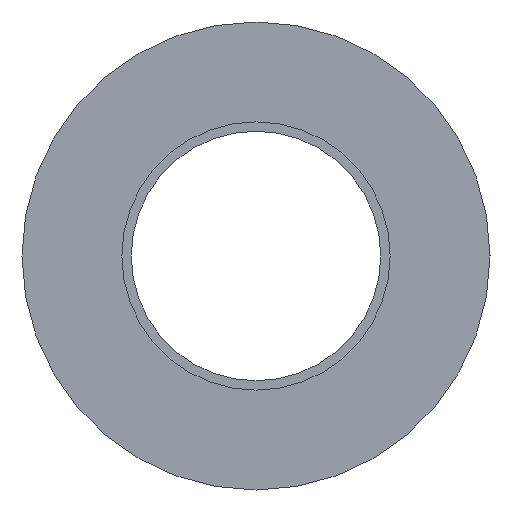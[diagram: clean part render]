
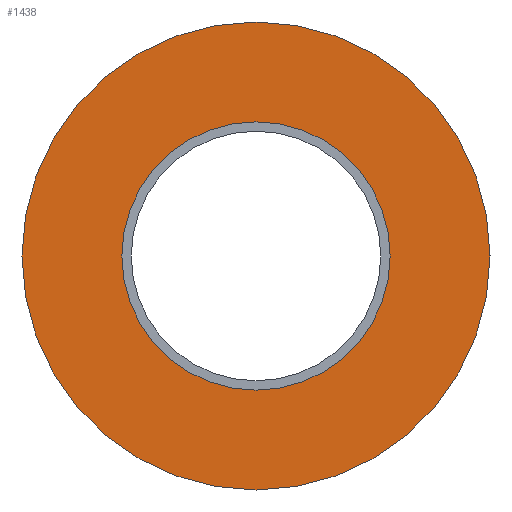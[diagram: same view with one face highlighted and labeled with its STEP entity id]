
A CAD part, left-side view. The second image highlights one B-rep face of the part: STEP entity #1438.
In plain terms, the highlighted planar face has unit normal (-1, 0, 0).
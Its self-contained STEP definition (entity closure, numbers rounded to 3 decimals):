
#556=CARTESIAN_POINT('',(0.0,15.0,0.0));
#557=VERTEX_POINT('',#556);
#566=CARTESIAN_POINT('',(0.0,-15.0,0.));
#567=VERTEX_POINT('',#566);
#568=CARTESIAN_POINT('',(0.0,0.0,0.0));
#569=DIRECTION('',(1.0,0.0,0.0));
#570=DIRECTION('',(0.0,1.0,0.0));
#571=AXIS2_PLACEMENT_3D('',#568,#569,#570);
#572=CIRCLE('',#571,15.0);
#573=EDGE_CURVE('',#557,#567,#572,.T.);
#701=CARTESIAN_POINT('',(0.0,0.,-8.6));
#702=VERTEX_POINT('',#701);
#718=CARTESIAN_POINT('',(0.0,0.,8.6));
#719=VERTEX_POINT('',#718);
#726=CARTESIAN_POINT('',(0.0,0.0,0.0));
#727=DIRECTION('',(-1.0,0.0,0.0));
#728=DIRECTION('',(0.0,0.0,-1.0));
#729=AXIS2_PLACEMENT_3D('',#726,#727,#728);
#730=CIRCLE('',#729,8.6);
#731=EDGE_CURVE('',#702,#719,#730,.F.);
#1128=CARTESIAN_POINT('',(0.0,0.0,0.0));
#1129=DIRECTION('',(-1.0,0.0,0.0));
#1130=DIRECTION('',(0.0,0.0,-1.0));
#1131=AXIS2_PLACEMENT_3D('',#1128,#1129,#1130);
#1132=CIRCLE('',#1131,8.6);
#1133=EDGE_CURVE('',#719,#702,#1132,.F.);
#1215=CARTESIAN_POINT('',(0.0,0.0,0.0));
#1216=DIRECTION('',(1.0,0.0,0.0));
#1217=DIRECTION('',(0.0,1.0,0.0));
#1218=AXIS2_PLACEMENT_3D('',#1215,#1216,#1217);
#1219=CIRCLE('',#1218,15.0);
#1220=EDGE_CURVE('',#567,#557,#1219,.T.);
#1425=CARTESIAN_POINT('',(0.0,7.5,0.0));
#1426=DIRECTION('',(-1.0,0.0,0.0));
#1427=DIRECTION('',(0.0,0.0,1.0));
#1428=AXIS2_PLACEMENT_3D('',#1425,#1426,#1427);
#1429=PLANE('',#1428);
#1430=ORIENTED_EDGE('',*,*,#573,.F.);
#1431=ORIENTED_EDGE('',*,*,#1220,.F.);
#1432=EDGE_LOOP('',(#1430,#1431));
#1433=FACE_OUTER_BOUND('',#1432,.T.);
#1434=ORIENTED_EDGE('',*,*,#1133,.T.);
#1435=ORIENTED_EDGE('',*,*,#731,.T.);
#1436=EDGE_LOOP('',(#1434,#1435));
#1437=FACE_BOUND('',#1436,.T.);
#1438=ADVANCED_FACE('',(#1433,#1437),#1429,.T.);
